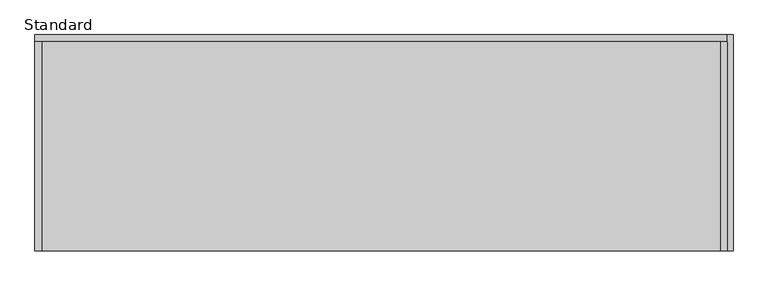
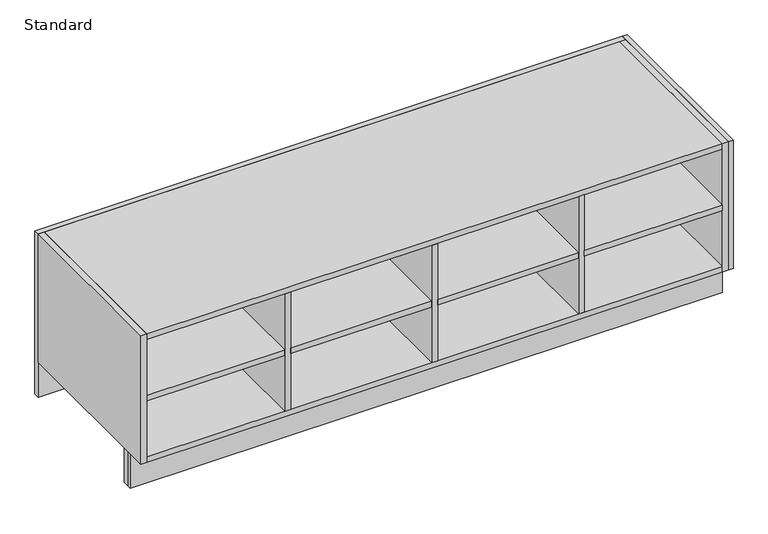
"""IFC4 building model written with IfcOpenShell, lengths in millimetres: furniture geometry, X_Locker-Duracube-Shoe Box : Standard."""

from ifc_helpers import new_model, si_unit, frame, origin, origin_with_axes, place, context, project, spatial, polyline, outline, extrude, source, transform, mapped, element, save


def standard_7a0b6f89(model_context):
    return source(origin(), model_context, "Body", "SweptSolid", [
        extrude(outline(polyline([(822.2003264, -308.5), (822.2003264, -792.5), (446.2003264, -792.5), (446.2003264, -308.5), (822.2003264, -308.5)])), frame((0.0, 0.0, 277.0), z_axis=(0.0, 0.0, 1.0), x_axis=(1.0, 0.0, 0.0)), (0.0, 0.0, 1.0), 16.0),
        extrude(outline(polyline([(430.2003264, -308.5), (430.2003264, -792.5), (46.2003264, -792.5), (46.2003264, -308.5), (430.2003264, -308.5)])), frame((0.0, 0.0, 277.0), z_axis=(0.0, 0.0, 1.0), x_axis=(1.0, 0.0, 0.0)), (0.0, 0.0, 1.0), 16.0),
        extrude(outline(polyline([(30.2003264, -308.5), (30.2003264, -792.5), (-353.7996736, -792.5), (-353.7996736, -308.5), (30.2003264, -308.5)])), frame((0.0, 0.0, 277.0), z_axis=(0.0, 0.0, 1.0), x_axis=(1.0, 0.0, 0.0)), (0.0, 0.0, 1.0), 16.0),
        extrude(outline(polyline([(446.2003264, -308.5), (446.2003264, -792.5), (430.2003264, -792.5), (430.2003264, -308.5), (446.2003264, -308.5)])), frame((0.0, 0.0, 116.0), z_axis=(0.0, 0.0, 1.0), x_axis=(1.0, 0.0, 0.0)), (0.0, 0.0, 1.0), 338.0),
        extrude(outline(polyline([(46.2003264, -308.5), (46.2003264, -792.5), (30.2003264, -792.5), (30.2003264, -308.5), (46.2003264, -308.5)])), frame((0.0, 0.0, 116.0), z_axis=(0.0, 0.0, 1.0), x_axis=(1.0, 0.0, 0.0)), (0.0, 0.0, 1.0), 338.0),
        extrude(outline(polyline([(-353.7996736, -308.5), (-353.7996736, -792.5), (-369.7996736, -792.5), (-369.7996736, -308.5), (-353.7996736, -308.5)])), frame((0.0, 0.0, 116.0), z_axis=(0.0, 0.0, 1.0), x_axis=(1.0, 0.0, 0.0)), (0.0, 0.0, 1.0), 338.0),
        extrude(outline(polyline([(838.2003264, -308.5), (838.2003264, -792.5), (822.2003264, -792.5), (822.2003264, -308.5), (838.2003264, -308.5)])), frame((0.0, 0.0, 100.0), z_axis=(0.0, 0.0, 1.0), x_axis=(1.0, 0.0, 0.0)), (0.0, 0.0, 1.0), 370.0),
        extrude(outline(polyline([(-745.7996736, -308.5), (-745.7996736, -792.5), (-761.7996736, -792.5), (-761.7996736, -308.5), (-745.7996736, -308.5)])), frame((0.0, 0.0, 100.0), z_axis=(0.0, 0.0, 1.0), x_axis=(1.0, 0.0, 0.0)), (0.0, 0.0, 1.0), 370.0),
        extrude(outline(polyline([(-369.7996736, -308.5), (-369.7996736, -792.5), (-745.7996736, -792.5), (-745.7996736, -308.5), (-369.7996736, -308.5)])), frame((0.0, 0.0, 277.0), z_axis=(0.0, 0.0, 1.0), x_axis=(1.0, 0.0, 0.0)), (0.0, 0.0, 1.0), 16.0),
        extrude(outline(polyline([(822.2003264, -308.5), (822.2003264, -792.5), (-745.7996736, -792.5), (-745.7996736, -308.5), (822.2003264, -308.5)])), frame((0.0, 0.0, 454.0), z_axis=(0.0, 0.0, 1.0), x_axis=(1.0, 0.0, 0.0)), (0.0, 0.0, 1.0), 16.0),
        extrude(outline(polyline([(822.2003264, -308.5), (822.2003264, -792.5), (-745.7996736, -792.5), (-745.7996736, -308.5), (822.2003264, -308.5)])), frame((0.0, 0.0, 100.0), z_axis=(0.0, 0.0, 1.0), x_axis=(1.0, 0.0, 0.0)), (0.0, 0.0, 1.0), 16.0),
        extrude(outline(polyline([(-792.5, 470.0), (-292.5, 470.0), (-292.5, 0.0), (-729.5, 0.0), (-729.5, 100.0), (-792.5, 100.0), (-792.5, 470.0)])), frame((838.2003264, 0.0, 0.0), z_axis=(1.0, 0.0, 0.0), x_axis=(0.0, 1.0, 0.0)), (0.0, 0.0, 1.0), 13.0),
        extrude(outline(polyline([(838.2003264, -292.5), (838.2003264, -308.5), (-761.7996736, -308.5), (-761.7996736, -292.5), (838.2003264, -292.5)])), origin_with_axes(), (0.0, 0.0, 1.0), 470.0),
        extrude(outline(polyline([(838.2003264, -713.5), (838.2003264, -729.5), (-761.7996736, -729.5), (-761.7996736, -713.5), (838.2003264, -713.5)])), origin_with_axes(), (0.0, 0.0, 1.0), 100.0),
        extrude(outline(polyline([(851.2003264, -729.5), (851.2003264, -742.5), (-761.7996736, -742.5), (-761.7996736, -729.5), (851.2003264, -729.5)])), origin_with_axes(), (0.0, 0.0, 1.0), 100.0),
    ])


if __name__ == "__main__":
    model = new_model("IFC4")
    model_context = context("Model", 3, world=origin())
    ifc_project = project(units=[si_unit("LENGTHUNIT", "METRE", prefix="MILLI")], contexts=[model_context])
    site = spatial("IfcSite", under=ifc_project)
    building = spatial("IfcBuilding", under=site)
    placement = place(None, origin())
    standard_shape = standard_7a0b6f89(model_context)
    element("IfcFurniture", 1, ObjectType="X_Locker-Duracube-Shoe Box : Standard", at=placement, inside=building, context=model_context, shape_type="MappedRepresentation", body=[
        mapped(standard_shape, transform((0.0, 0.0, 0.0), x_axis=(1.0, 0.0, 0.0), y_axis=(0.0, 1.0, 0.0), z_axis=(0.0, 0.0, 1.0))),
    ])
    save(model, "model.ifc")
